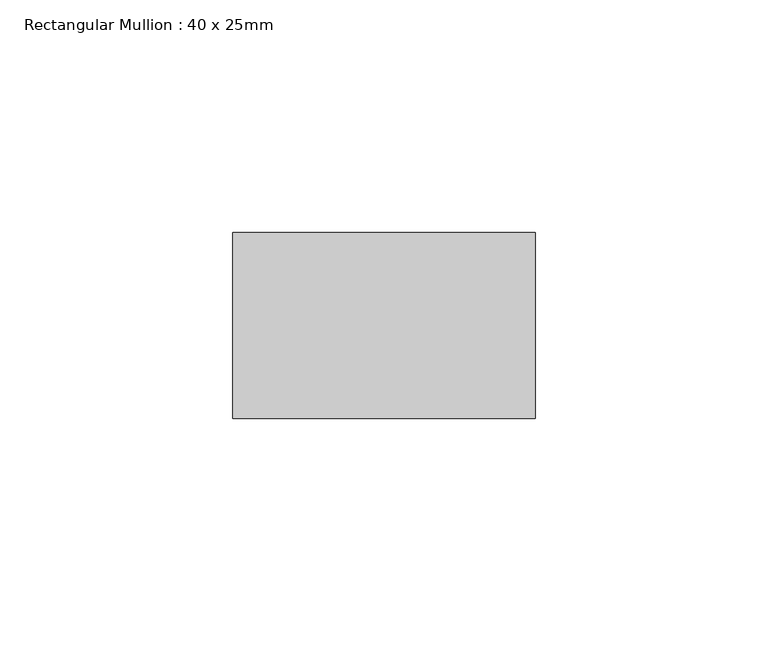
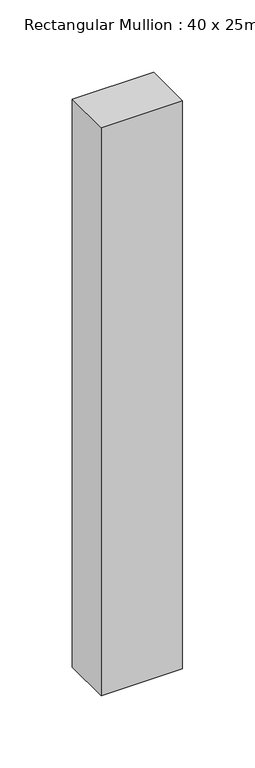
"""IFC4 building model written with IfcOpenShell, lengths in millimetres: member geometry, Rectangular Mullion : 40 x 25mm."""

from ifc_helpers import new_model, si_unit, frame, origin, place, context, project, spatial, polyline, outline, extrude, source, transform, mapped, element, save


def rectangular_mullion_40_x_25mm_1b5e0709(model_context):
    return source(origin(), model_context, "Body", "SweptSolid", [
        extrude(outline(polyline([(0.0, -20.0), (0.0, -60.0), (-65.0, -60.0), (-65.0, -20.0), (0.0, -20.0)])), frame((0.0, 0.0, -480.0), z_axis=(0.0, 0.0, 1.0), x_axis=(1.0, 0.0, 0.0)), (0.0, 0.0, 1.0), 480.0),
    ])


if __name__ == "__main__":
    model = new_model("IFC4")
    model_context = context("Model", 3, world=origin())
    ifc_project = project(units=[si_unit("LENGTHUNIT", "METRE", prefix="MILLI")], contexts=[model_context])
    site = spatial("IfcSite", under=ifc_project)
    building = spatial("IfcBuilding", under=site)
    placement = place(None, origin())
    rectangular_mullion_40_x_25mm_shape = rectangular_mullion_40_x_25mm_1b5e0709(model_context)
    element("IfcMember", 1, ObjectType="Rectangular Mullion : 40 x 25mm", at=placement, inside=building, context=model_context, shape_type="MappedRepresentation", body=[
        mapped(rectangular_mullion_40_x_25mm_shape, transform((0.0, 0.0, 0.0), x_axis=(1.0, 0.0, 0.0), y_axis=(0.0, 1.0, 0.0), z_axis=(0.0, 0.0, 1.0))),
    ])
    save(model, "model.ifc")
